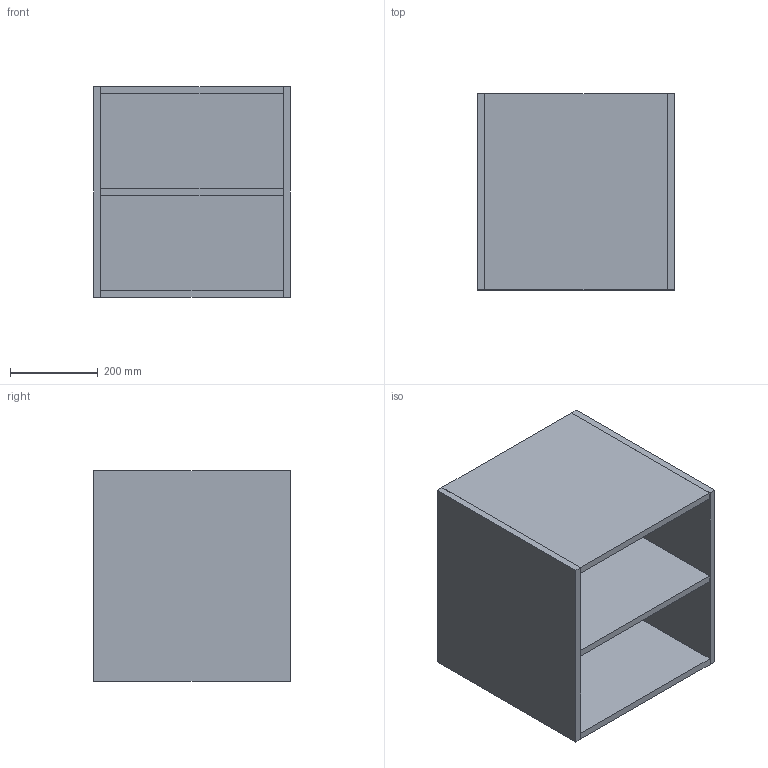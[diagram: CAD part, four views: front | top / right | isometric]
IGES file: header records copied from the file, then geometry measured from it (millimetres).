
Start section: Data from Parasolid IGES Translator 19.0.9, Copyright(c) 2006 Siemens PL M Software. All Rights Reserved.
Global section: file name: noorth-SI-H 48 D 47 W 45_8507.igs; native system: By Siemens PLM Incorporated; preprocessor: XPlus GENERIC/IGES 19.0.9; author: Noname; organization: Noname; date: 20200601.111407; units: metre
Bounding box: 450.01 x 448.06 x 480 mm (x, y, z)
Volume: 16407534.5 mm3; surface area: 2505913.4 mm2
Topology: 6 solids, 6 shells, 36 faces, 72 edges, 48 vertices
Faces by surface type: plane 36
